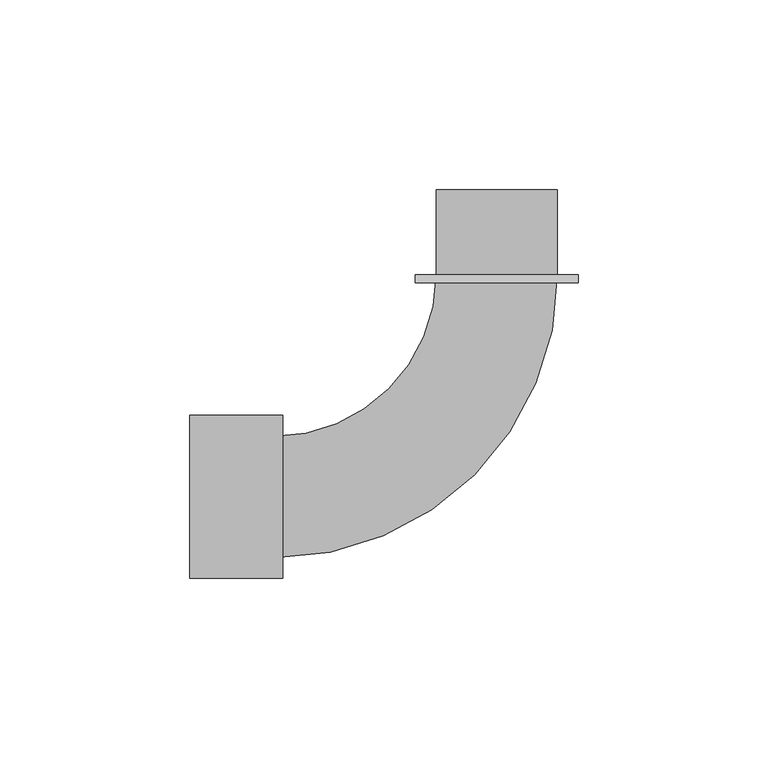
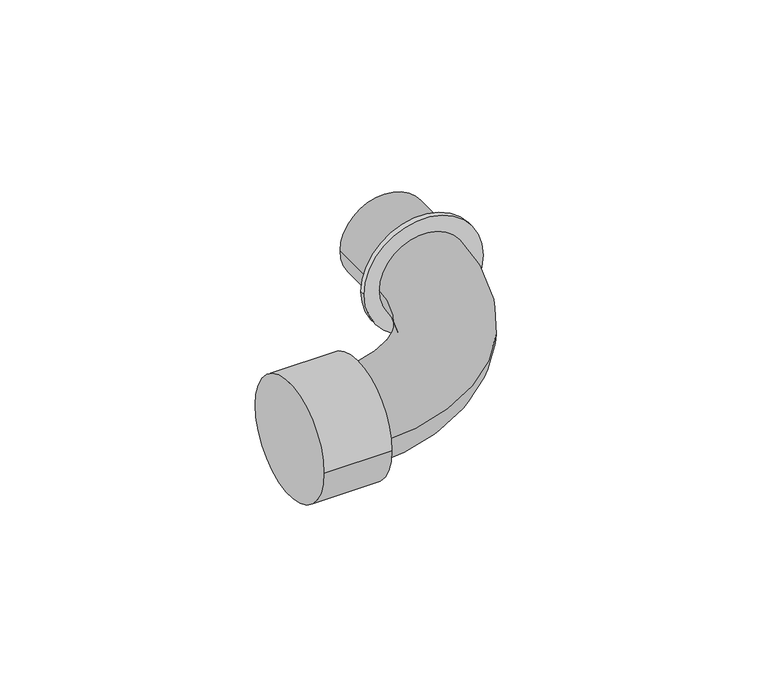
"""IFC4 building model written with IfcOpenShell, lengths in millimetres: pipe fitting geometry, 01051160 : Curva a 90º M/F."""

from ifc_helpers import new_model, si_unit, point, frame, origin, origin_2d, place, context, project, spatial, circle_curve, ellipse_curve, trimmed, segment, composite_curve, outline, extrude, source, transform, mapped, element, save
from ifc_brep_helpers import plane_surface, revolved_surface, advanced_brep


def pipe_fitting_7771c5e3(model_context):
    return source(origin(), model_context, "Body", "SolidModel", [
        extrude(outline(composite_curve([segment(trimmed(circle_curve(origin_2d(), 21.5), [point((0.0, -21.5))], [point((0.0, 21.5))], False, "CARTESIAN"), True, "CONTINUOUS"), segment(trimmed(circle_curve(origin_2d(), 21.5), [point((0.0, 21.5))], [point((0.0, -21.5))], False, "CARTESIAN"), True, "CONTINUOUS")], self_intersect=False)), frame((0.0, 56.5, 0.0), z_axis=(0.0, 1.0, 0.0), x_axis=(0.0, 0.0, 1.0)), (0.0, 0.0, 1.0), 2.0),
        extrude(outline(composite_curve([segment(trimmed(circle_curve(origin_2d(), 21.5), [point((-21.5, 0.0))], [point((21.5, 0.0))], False, "CARTESIAN"), True, "CONTINUOUS"), segment(trimmed(circle_curve(origin_2d(), 21.5), [point((21.5, 0.0))], [point((-21.5, 0.0))], False, "CARTESIAN"), True, "CONTINUOUS")], self_intersect=False)), frame((-81.0, 0.0, 0.0), z_axis=(1.0, 0.0, 0.0), x_axis=(0.0, 1.0, 0.0)), (0.0, 0.0, 1.0), 24.5),
        extrude(outline(composite_curve([segment(trimmed(circle_curve(origin_2d(), 16.0), [point((0.0, -16.0))], [point((0.0, 16.0))], False, "CARTESIAN"), True, "CONTINUOUS"), segment(trimmed(circle_curve(origin_2d(), 16.0), [point((0.0, 16.0))], [point((0.0, -16.0))], False, "CARTESIAN"), True, "CONTINUOUS")], self_intersect=False)), frame((0.0, 58.5, 0.0), z_axis=(0.0, 1.0, 0.0), x_axis=(0.0, 0.0, 1.0)), (0.0, 0.0, 1.0), 22.5),
        advanced_brep(
        [(-16.0, 58.5, 0.0), (16.0, 58.5, 0.0), (-58.5, 16.0, 0.0), (-58.5, -16.0, 0.0)],
        [
            (0, 1, circle_curve(frame((0.0, 58.5, 0.0), z_axis=(0.0, 1.0, 0.0), x_axis=(1.0, 0.0, 0.0)), 16.0)),
            (1, 0, circle_curve(frame((0.0, 58.5, 0.0), z_axis=(0.0, 1.0, 0.0), x_axis=(1.0, 0.0, 0.0)), 16.0)),
            (2, 3, circle_curve(frame((-58.5, 0.0, 0.0), z_axis=(-1.0, 0.0, 0.0), x_axis=(0.0, -1.0, 0.0)), 16.0)),
            (3, 2, circle_curve(frame((-58.5, 0.0, 0.0), z_axis=(-1.0, 0.0, 0.0), x_axis=(0.0, -1.0, 0.0)), 16.0)),
            (3, 1, circle_curve(frame((-58.5, 58.5, 0.0), z_axis=(0.0, 0.0, 1.0), x_axis=(1.0, 0.0, 0.0)), 74.5)),
            (0, 2, circle_curve(frame((-58.5, 58.5, 0.0), z_axis=(0.0, 0.0, -1.0), x_axis=(1.0, 0.0, 0.0)), 42.5)),
        ],
        [
            plane_surface(frame((0.0, 58.5, 0.0), z_axis=(0.0, 1.0, 0.0), x_axis=(0.0, 0.0, 1.0))),
            plane_surface(frame((-58.5, 0.0, 0.0), z_axis=(-1.0, 0.0, 0.0), x_axis=(0.0, 0.0, 1.0))),
            revolved_surface(trimmed(ellipse_curve(frame((0.0, 58.5, 0.0), z_axis=(0.0, 1.0, 0.0), x_axis=(1.0, 0.0, 0.0)), 16.0, 16.0), [point((-16.0, 58.5, 0.0))], [point((16.0, 58.5, 0.0))], True, "CARTESIAN"), (-58.5, 58.5, 0.0), (0.0, 0.0, -1.0)),
            revolved_surface(trimmed(ellipse_curve(frame((0.0, 58.5, 0.0), z_axis=(0.0, 1.0, 0.0), x_axis=(1.0, 0.0, 0.0)), 16.0, 16.0), [point((16.0, 58.5, 0.0))], [point((-16.0, 58.5, 0.0))], True, "CARTESIAN"), (-58.5, 58.5, 0.0), (0.0, 0.0, -1.0)),
        ],
        [
            (0, [[1, 2]]),
            (1, [[3, 4]]),
            (2, [[5, -1, 6, -4]]),
            (3, [[-6, -2, -5, -3]]),
        ],
    ),
    ])


if __name__ == "__main__":
    model = new_model("IFC4")
    model_context = context("Model", 3, world=origin())
    ifc_project = project(units=[si_unit("LENGTHUNIT", "METRE", prefix="MILLI")], contexts=[model_context])
    site = spatial("IfcSite", under=ifc_project)
    building = spatial("IfcBuilding", under=site)
    placement = place(None, origin())
    pipe_fitting_shape = pipe_fitting_7771c5e3(model_context)
    element("IfcPipeFitting", 1, ObjectType="01051160 : Curva a 90º M/F", at=placement, inside=building, context=model_context, shape_type="MappedRepresentation", body=[
        mapped(pipe_fitting_shape, transform((0.0, 0.0, 0.0), x_axis=(1.0, 0.0, 0.0), y_axis=(0.0, 1.0, 0.0), z_axis=(0.0, 0.0, 1.0))),
    ])
    save(model, "model.ifc")
